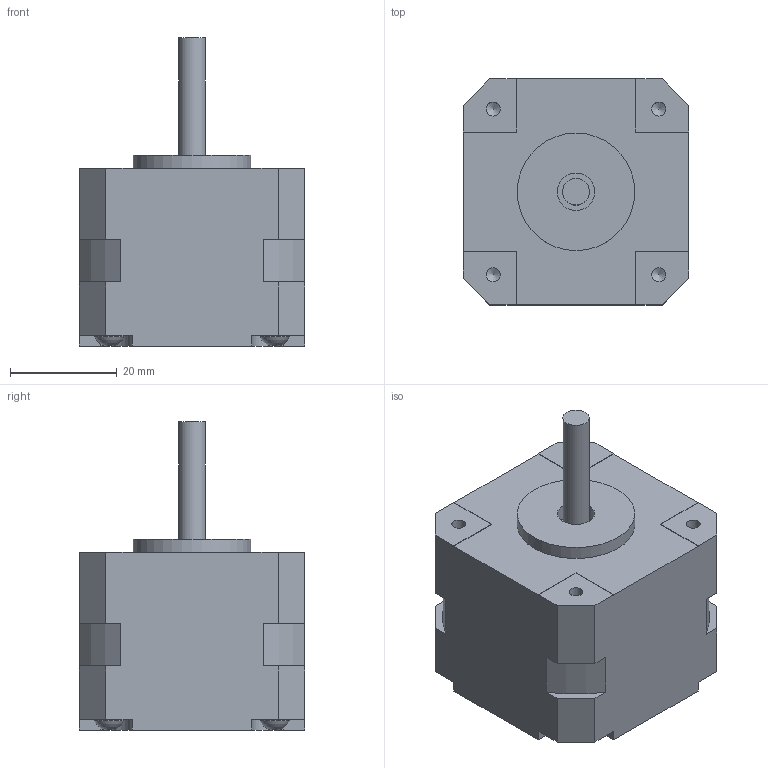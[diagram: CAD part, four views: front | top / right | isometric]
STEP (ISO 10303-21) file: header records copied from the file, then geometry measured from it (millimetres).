
FILE_DESCRIPTION(('STEP AP214'), '1');
FILE_NAME('Øàãîâûé äâèãàòåëü - PL42H34-D5', '', ('UNSPECIFIED'), ('UNSPECIFIED'), 'ASCON STEP Converter 1.3', 'ASCON Math Kernel', '');
FILE_SCHEMA(('AUTOMOTIVE_DESIGN { 1 0 10303 214 3 1 1}'));
Length unit declared in the file: millimetre
Products named in the file (5): Øàãîâûé äâèãàòåëü
Assembly tree (4 placements, depth 2):
  Øàãîâûé äâèãàòåëü
    (unnamed)
    (unnamed)
    (unnamed)
    (unnamed)
Bounding box: 42.3 x 42.3 x 57.72 mm (x, y, z)
Volume: 57668.4 mm3; surface area: 10357.7 mm2
Topology: 5 solids, 5 shells, 191 faces, 500 edges, 332 vertices
Faces by surface type: plane 115, bspline 32, cylinder 28, cone 12, sphere 4
Full cylindrical faces by diameter (mm): 2.621 x8, 3 x4, 5 x1, 5.5 x4, 7 x2, 22 x1
Entity records: 7726 total; most frequent: CARTESIAN_POINT 1392, ORIENTED_EDGE 912, DIRECTION 864, EDGE_CURVE 456, VERTEX_POINT 320, LINE 312, VECTOR 312, AXIS2_PLACEMENT_3D 276
